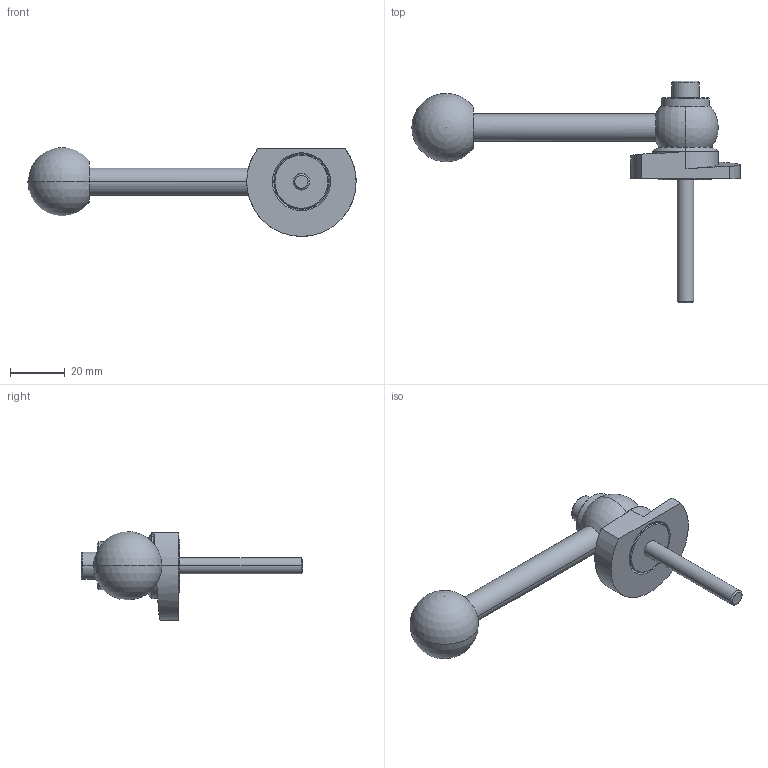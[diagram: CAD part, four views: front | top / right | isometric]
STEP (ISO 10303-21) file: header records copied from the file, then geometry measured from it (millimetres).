
FILE_DESCRIPTION (( 'STEP AP214' ), '1' );
FILE_NAME ('918.1-40-GVS-R-45.step', '2024-05-15T12:59:45', ( '' ), ( '' ), 'SwSTEP 2.0', 'SolidWorks 2022', '' );
FILE_SCHEMA (( 'AUTOMOTIVE_DESIGN' ));
Length unit declared in the file: millimetre
Products named in the file (1): 918.1-40-GVS-R-45
Bounding box: 120 x 81 x 32.5 mm (x, y, z)
Volume: 30780.1 mm3; surface area: 11587.3 mm2
Topology: 1 solids, 1 shells, 64 faces, 147 edges, 93 vertices
Faces by surface type: cylinder 22, plane 20, cone 14, sphere 4, torus 2, bspline 2
Entity records: 2045 total; most frequent: CARTESIAN_POINT 590, DIRECTION 321, ORIENTED_EDGE 274, EDGE_CURVE 137, AXIS2_PLACEMENT_3D 131, VERTEX_POINT 87, EDGE_LOOP 76, CIRCLE 68
